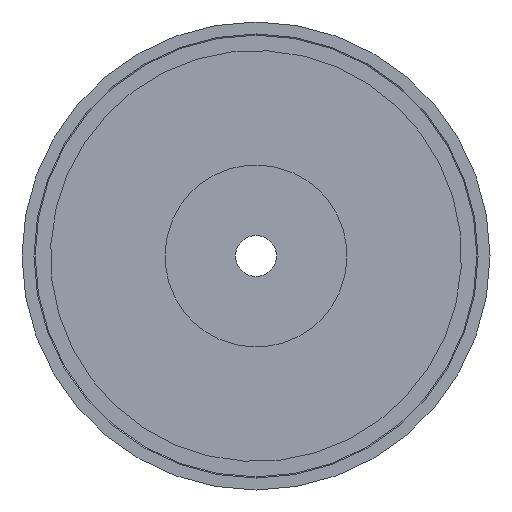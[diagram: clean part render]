
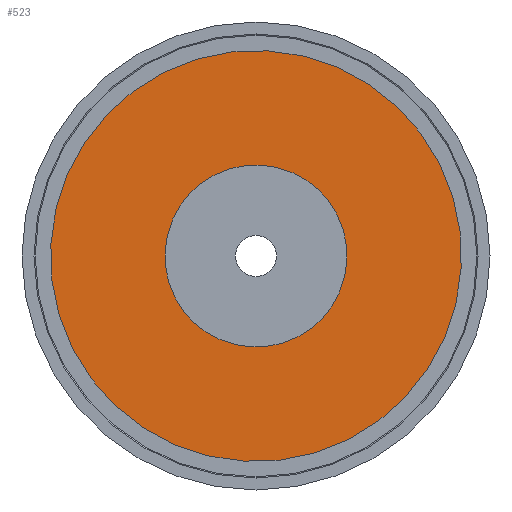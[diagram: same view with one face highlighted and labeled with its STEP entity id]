
A CAD part, front view. The second image highlights one B-rep face of the part: STEP entity #523.
In plain terms, the highlighted planar face has unit normal (0, -1, 0).
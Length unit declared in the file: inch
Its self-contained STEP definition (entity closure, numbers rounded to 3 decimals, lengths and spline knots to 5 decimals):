
#1 = DIRECTION ( 'NONE',  ( -0.549, 0., -0.836 ) ) ;
#13 = VERTEX_POINT ( 'NONE', #460 ) ;
#46 = AXIS2_PLACEMENT_3D ( 'NONE', #543, #350, #400 ) ;
#49 = ORIENTED_EDGE ( 'NONE', *, *, #174, .T. ) ;
#71 = CIRCLE ( 'NONE', #46, 1.405 ) ;
#73 = ORIENTED_EDGE ( 'NONE', *, *, #593, .F. ) ;
#101 = CARTESIAN_POINT ( 'NONE',  ( 0., -0.405, 0. ) ) ;
#150 = DIRECTION ( 'NONE',  ( 0., 1., 0. ) ) ;
#163 = CIRCLE ( 'NONE', #393, 1.405 ) ;
#167 = DIRECTION ( 'NONE',  ( -0.549, 0., -0.836 ) ) ;
#174 = EDGE_CURVE ( 'NONE', #399, #13, #381, .T. ) ;
#196 = DIRECTION ( 'NONE',  ( -0.549, 0., -0.836 ) ) ;
#198 = EDGE_LOOP ( 'NONE', ( #520, #49 ) ) ;
#209 = EDGE_CURVE ( 'NONE', #346, #527, #163, .T. ) ;
#211 = PLANE ( 'NONE',  #320 ) ;
#267 = DIRECTION ( 'NONE',  ( 0., 1., 0. ) ) ;
#292 = CARTESIAN_POINT ( 'NONE',  ( 0., -0.405, 0. ) ) ;
#299 = AXIS2_PLACEMENT_3D ( 'NONE', #581, #391, #167 ) ;
#304 = FACE_OUTER_BOUND ( 'NONE', #565, .T. ) ;
#320 = AXIS2_PLACEMENT_3D ( 'NONE', #292, #436, #384 ) ;
#329 = CARTESIAN_POINT ( 'NONE',  ( 0., -0.405, 0. ) ) ;
#330 = CARTESIAN_POINT ( 'NONE',  ( -0.34144, -0.405, -0.5205 ) ) ;
#346 = VERTEX_POINT ( 'NONE', #363 ) ;
#350 = DIRECTION ( 'NONE',  ( 0., 1., 0. ) ) ;
#363 = CARTESIAN_POINT ( 'NONE',  ( 0.77065, -0.405, 1.17479 ) ) ;
#381 = CIRCLE ( 'NONE', #442, 0.6225 ) ;
#384 = DIRECTION ( 'NONE',  ( -0.549, 0., -0.836 ) ) ;
#391 = DIRECTION ( 'NONE',  ( 0., 1., 0. ) ) ;
#393 = AXIS2_PLACEMENT_3D ( 'NONE', #101, #150, #1 ) ;
#399 = VERTEX_POINT ( 'NONE', #330 ) ;
#400 = DIRECTION ( 'NONE',  ( -0.549, 0., -0.836 ) ) ;
#436 = DIRECTION ( 'NONE',  ( 0., 1., 0. ) ) ;
#442 = AXIS2_PLACEMENT_3D ( 'NONE', #329, #267, #196 ) ;
#460 = CARTESIAN_POINT ( 'NONE',  ( 0.34144, -0.405, 0.5205 ) ) ;
#481 = ORIENTED_EDGE ( 'NONE', *, *, #209, .F. ) ;
#482 = CIRCLE ( 'NONE', #299, 0.6225 ) ;
#507 = EDGE_CURVE ( 'NONE', #13, #399, #482, .T. ) ;
#520 = ORIENTED_EDGE ( 'NONE', *, *, #507, .T. ) ;
#523 = ADVANCED_FACE ( 'NONE', ( #304, #569 ), #211, .F. ) ;
#527 = VERTEX_POINT ( 'NONE', #575 ) ;
#543 = CARTESIAN_POINT ( 'NONE',  ( 0., -0.405, 0. ) ) ;
#565 = EDGE_LOOP ( 'NONE', ( #481, #73 ) ) ;
#569 = FACE_BOUND ( 'NONE', #198, .T. ) ;
#575 = CARTESIAN_POINT ( 'NONE',  ( -0.77065, -0.405, -1.17479 ) ) ;
#581 = CARTESIAN_POINT ( 'NONE',  ( 0., -0.405, 0. ) ) ;
#593 = EDGE_CURVE ( 'NONE', #527, #346, #71, .T. ) ;
